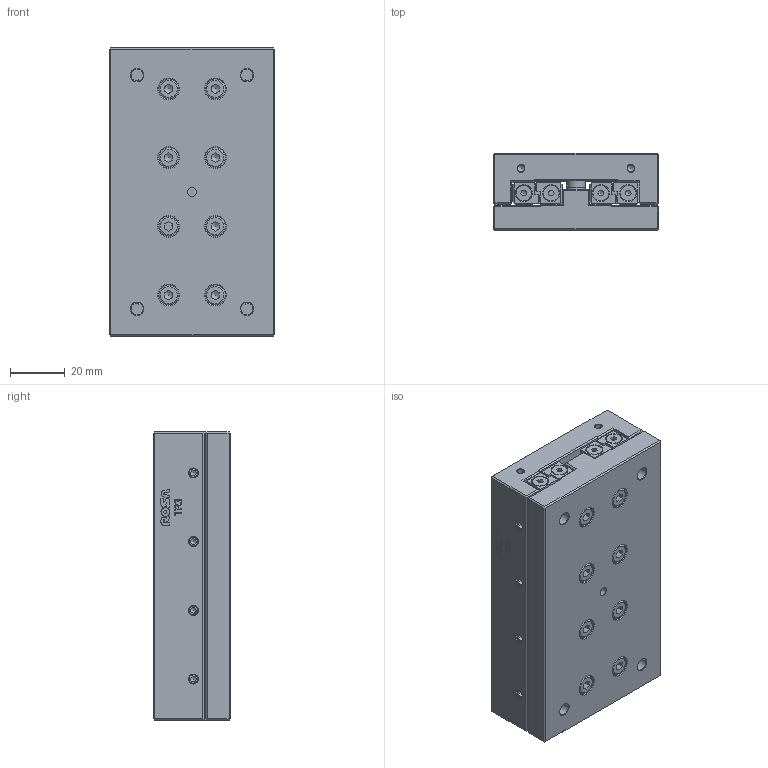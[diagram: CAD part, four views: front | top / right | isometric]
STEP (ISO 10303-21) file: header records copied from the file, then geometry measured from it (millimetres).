
FILE_DESCRIPTION(/* description */ ('Tavola TR3 L= 105 mm'),/* implementation_level */ '2;1');
FILE_NAME(/* name */ 'TR030105-00.stp',/* time_stamp */ '2024-02-07T10:25:56+01:00',/* author */ ('Rosa sistemi'),/* organization */ (''),/* preprocessor_version */ 'ST-DEVELOPER v20',/* originating_system */ 'Autodesk Inventor 2024',/* authorisation */ '');
FILE_SCHEMA (('AUTOMOTIVE_DESIGN { 1 0 10303 214 3 1 1 }'));
Length unit declared in the file: millimetre
Products named in the file (2): TR030105-00; TR030105-00_1
Assembly tree (1 placements, depth 2):
  TR030105-00
    TR030105-00_1
Bounding box: 60 x 28 x 105 mm (x, y, z)
Volume: 161142 mm3; surface area: 52211 mm2
Topology: 14 solids, 14 shells, 1513 faces, 3887 edges, 2544 vertices
Faces by surface type: plane 934, cylinder 199, bspline 196, cone 146, torus 38
Full cylindrical faces by diameter (mm): 0.929 x4, 1.161 x1, 2.459 x4, 2.554 x4, 3 x8, 3.1 x4, 3.192 x1, 3.242 x28, 4 x16, 4.5 x20, 5.7 x8, 6 x16, 7 x16, 7.5 x20
Entity records: 48117 total; most frequent: CARTESIAN_POINT 11017, ORIENTED_EDGE 7710, DIRECTION 6666, EDGE_CURVE 3855, VERTEX_POINT 2544, LINE 2436, VECTOR 2436, AXIS2_PLACEMENT_3D 2115
